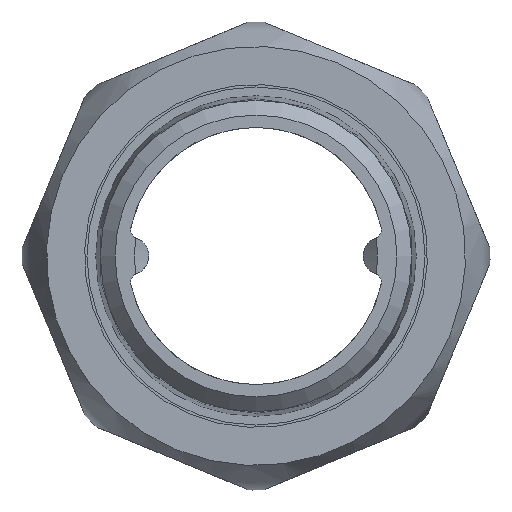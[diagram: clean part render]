
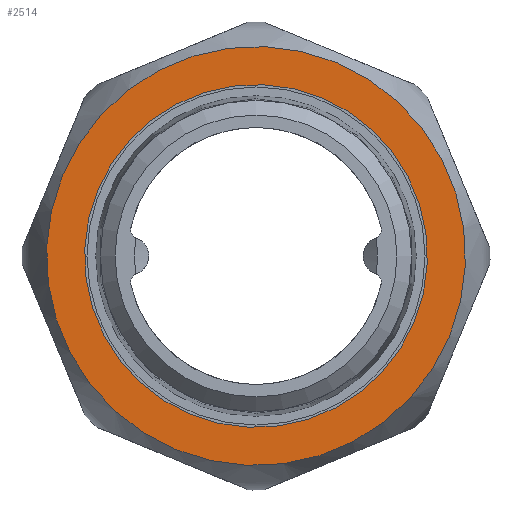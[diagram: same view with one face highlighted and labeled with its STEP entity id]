
A CAD part, left-side view. The second image highlights one B-rep face of the part: STEP entity #2514.
In plain terms, the highlighted planar face has unit normal (-1, 0, 0) as drawn and (1, 0, 0) by its records, which use the part's own axes.
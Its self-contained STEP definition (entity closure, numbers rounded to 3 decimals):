
#2480=CARTESIAN_POINT('',(18.0,22.0,0.0));
#2481=VERTEX_POINT('',#2480);
#2482=CARTESIAN_POINT('',(18.0,0.0,0.0));
#2483=DIRECTION('',(1.0,0.0,0.0));
#2484=DIRECTION('',(0.0,1.0,0.0));
#2485=AXIS2_PLACEMENT_3D('',#2482,#2483,#2484);
#2486=CIRCLE('',#2485,22.0);
#2487=EDGE_CURVE('',#2481,#2481,#2486,.T.);
#2495=CARTESIAN_POINT('',(18.0,20.0,0.0));
#2496=DIRECTION('',(1.0,0.0,0.0));
#2497=DIRECTION('',(0.0,0.0,-1.0));
#2498=AXIS2_PLACEMENT_3D('',#2495,#2496,#2497);
#2499=PLANE('',#2498);
#2500=ORIENTED_EDGE('',*,*,#2487,.T.);
#2501=EDGE_LOOP('',(#2500));
#2502=FACE_OUTER_BOUND('',#2501,.T.);
#2503=CARTESIAN_POINT('',(18.,18.0,0.0));
#2504=VERTEX_POINT('',#2503);
#2505=CARTESIAN_POINT('',(18.,0.0,0.0));
#2506=DIRECTION('',(1.0,0.0,0.0));
#2507=DIRECTION('',(0.0,1.0,0.0));
#2508=AXIS2_PLACEMENT_3D('',#2505,#2506,#2507);
#2509=CIRCLE('',#2508,18.0);
#2510=EDGE_CURVE('',#2504,#2504,#2509,.T.);
#2511=ORIENTED_EDGE('',*,*,#2510,.F.);
#2512=EDGE_LOOP('',(#2511));
#2513=FACE_BOUND('',#2512,.T.);
#2514=ADVANCED_FACE('',(#2502,#2513),#2499,.T.);
